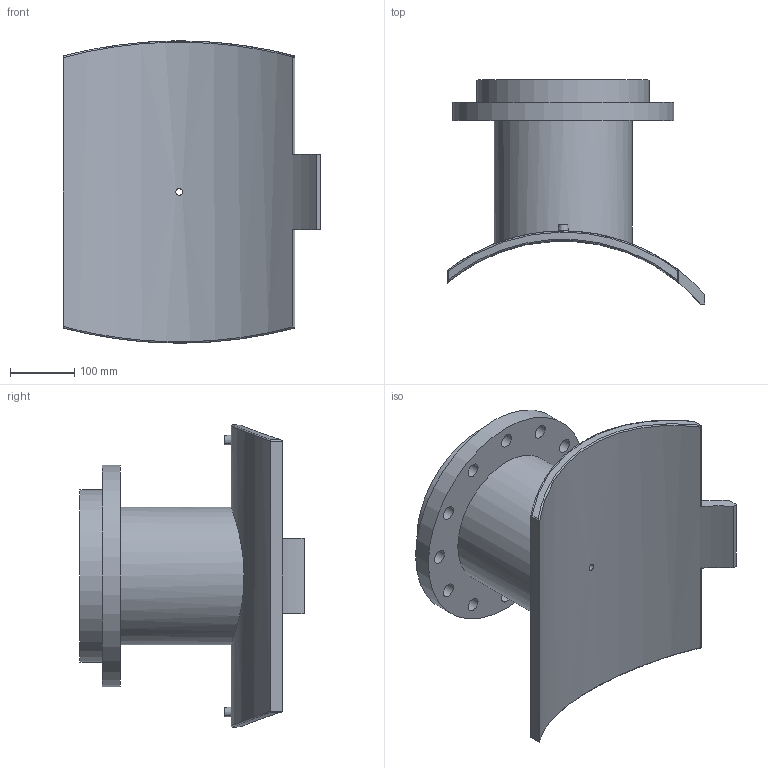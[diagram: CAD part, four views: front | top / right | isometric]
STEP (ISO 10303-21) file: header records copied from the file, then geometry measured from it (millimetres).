
FILE_DESCRIPTION(/* description */ ('PLASSON FLANGED BRANCH SADDLE 560X200'),/* implementation_level */ '2;1');
FILE_NAME(/* name */ 'C:\Dropbox\KIMPROJECTS-Inventor 2019\99-16-3568-Processing\ElectroFusion Fittings\495904_495903\stp\495903560200T.stp',/* time_stamp */ '2024-04-03T21:01:20+02:00',/* author */ ('KIM'),/* organization */ (''),/* preprocessor_version */ 'ST-DEVELOPER v17.2',/* originating_system */ 'Autodesk Inventor 2019',/* authorisation */ '');
FILE_SCHEMA (('AUTOMOTIVE_DESIGN { 1 0 10303 214 3 1 1 }'));
Length unit declared in the file: millimetre
Products named in the file (1): 495903560200T
Bounding box: 400 x 348.47 x 469.96 mm (x, y, z)
Volume: 8633984.1 mm3; surface area: 841971.8 mm2
Topology: 1 solids, 1 shells, 62 faces, 163 edges, 126 vertices
Faces by surface type: cylinder 35, plane 17, sphere 4, bspline 4, cone 2
Full cylindrical faces by diameter (mm): 4 x2, 10 x2, 10.4 x1, 16 x1, 22 x12, 163 x1, 214.4 x1, 268 x1, 344 x1
Entity records: 2631 total; most frequent: CARTESIAN_POINT 1003, DIRECTION 325, ORIENTED_EDGE 298, EDGE_CURVE 149, AXIS2_PLACEMENT_3D 137, VERTEX_POINT 100, EDGE_LOOP 99, CIRCLE 78
